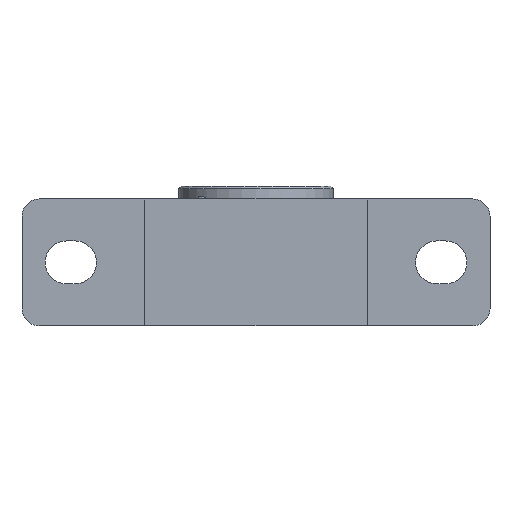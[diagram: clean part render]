
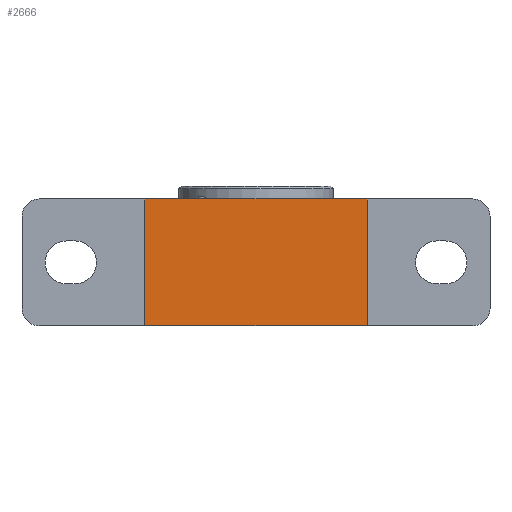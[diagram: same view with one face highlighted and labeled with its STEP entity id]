
A CAD part, front view. The second image highlights one B-rep face of the part: STEP entity #2666.
In plain terms, the highlighted planar face has unit normal (0, -1, 0).
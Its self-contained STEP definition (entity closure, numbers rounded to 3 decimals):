
#192=PLANE('',#3060);
#286=LINE('',#4852,#388);
#297=LINE('',#4882,#399);
#328=LINE('',#5046,#430);
#329=LINE('',#5048,#431);
#388=VECTOR('',#3478,10.);
#399=VECTOR('',#3503,10.);
#430=VECTOR('',#3666,10.);
#431=VECTOR('',#3669,10.);
#564=FACE_OUTER_BOUND('',#712,.T.);
#712=EDGE_LOOP('',(#2100,#2101,#2102,#2103));
#1145=VERTEX_POINT('',#4849);
#1146=VERTEX_POINT('',#4851);
#1157=VERTEX_POINT('',#4879);
#1158=VERTEX_POINT('',#4881);
#1454=EDGE_CURVE('',#1145,#1146,#286,.T.);
#1469=EDGE_CURVE('',#1157,#1158,#297,.T.);
#1541=EDGE_CURVE('',#1158,#1145,#328,.T.);
#1542=EDGE_CURVE('',#1157,#1146,#329,.T.);
#2100=ORIENTED_EDGE('',*,*,#1541,.F.);
#2101=ORIENTED_EDGE('',*,*,#1469,.F.);
#2102=ORIENTED_EDGE('',*,*,#1542,.T.);
#2103=ORIENTED_EDGE('',*,*,#1454,.F.);
#2666=ADVANCED_FACE('',(#564),#192,.T.);
#3060=AXIS2_PLACEMENT_3D('',#5047,#3667,#3668);
#3478=DIRECTION('',(1.,0.,0.));
#3503=DIRECTION('',(-1.,0.,0.));
#3666=DIRECTION('',(0.,0.,1.));
#3667=DIRECTION('center_axis',(0.,-1.,0.));
#3668=DIRECTION('ref_axis',(-1.,0.,0.));
#3669=DIRECTION('',(0.,0.,1.));
#4849=CARTESIAN_POINT('',(-65.,2.,37.));
#4851=CARTESIAN_POINT('',(65.,2.,37.));
#4852=CARTESIAN_POINT('',(-65.,2.,37.));
#4879=CARTESIAN_POINT('',(65.,2.,-37.));
#4881=CARTESIAN_POINT('',(-65.,2.,-37.));
#4882=CARTESIAN_POINT('',(-65.,2.,-37.));
#5046=CARTESIAN_POINT('',(-65.,2.,0.));
#5047=CARTESIAN_POINT('Origin',(65.,2.,0.));
#5048=CARTESIAN_POINT('',(65.,2.,0.));
